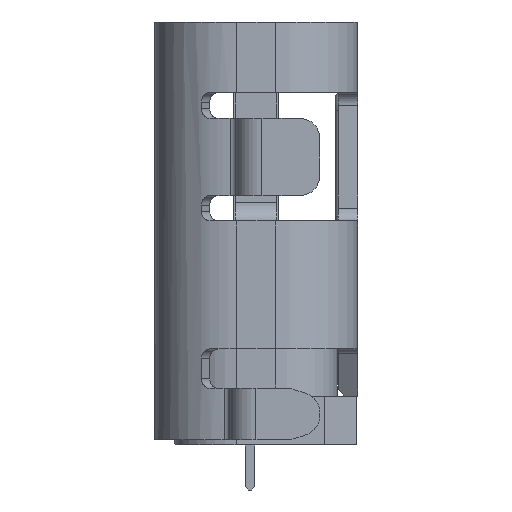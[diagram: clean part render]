
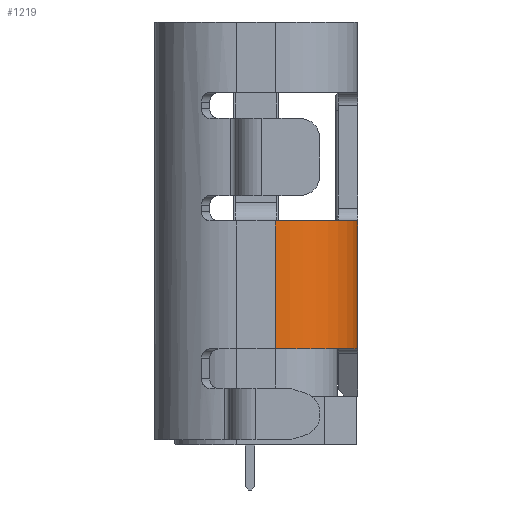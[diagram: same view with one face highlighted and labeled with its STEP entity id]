
A CAD part, left-side view. The second image highlights one B-rep face of the part: STEP entity #1219.
In plain terms, the highlighted cylindrical face has radius 1.28 mm (diameter 2.56 mm), a partial arc.
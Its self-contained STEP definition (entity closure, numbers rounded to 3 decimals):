
#273=CYLINDRICAL_SURFACE('',#15397,1.28);
#711=CIRCLE('',#15394,1.28);
#712=CIRCLE('',#15396,1.28);
#1219=ADVANCED_FACE('',(#2558),#273,.T.);
#2558=FACE_OUTER_BOUND('',#3365,.T.);
#3365=EDGE_LOOP('',(#6198,#6199,#6200,#6201));
#6198=ORIENTED_EDGE('',*,*,#9442,.T.);
#6199=ORIENTED_EDGE('',*,*,#10721,.T.);
#6200=ORIENTED_EDGE('',*,*,#10688,.F.);
#6201=ORIENTED_EDGE('',*,*,#10722,.T.);
#8096=VERTEX_POINT('',#20210);
#8097=VERTEX_POINT('',#20212);
#8938=VERTEX_POINT('',#23137);
#8940=VERTEX_POINT('',#23145);
#9442=EDGE_CURVE('',#8097,#8096,#11539,.T.);
#10688=EDGE_CURVE('',#8938,#8940,#12482,.T.);
#10721=EDGE_CURVE('',#8096,#8940,#711,.T.);
#10722=EDGE_CURVE('',#8938,#8097,#712,.T.);
#11539=LINE('',#20211,#13186);
#12482=LINE('',#23144,#14129);
#13186=VECTOR('',#16072,1.);
#14129=VECTOR('',#18297,1.);
#15394=AXIS2_PLACEMENT_3D('',#23206,#18371,#18372);
#15396=AXIS2_PLACEMENT_3D('',#23208,#18375,#18376);
#15397=AXIS2_PLACEMENT_3D('',#23209,#18377,#18378);
#16072=DIRECTION('',(0.,0.,1.));
#18297=DIRECTION('',(0.,0.,1.));
#18371=DIRECTION('',(0.,0.,-1.));
#18372=DIRECTION('',(0.,-1.,0.));
#18375=DIRECTION('',(0.,0.,1.));
#18376=DIRECTION('',(-1.,0.,0.));
#18377=DIRECTION('',(0.,0.,1.));
#18378=DIRECTION('',(-1.,0.,0.));
#20210=CARTESIAN_POINT('',(-3.19,-1.58,1.705));
#20211=CARTESIAN_POINT('',(-3.19,-1.58,-0.285));
#20212=CARTESIAN_POINT('',(-3.19,-1.58,-0.285));
#23137=CARTESIAN_POINT('',(-4.47,-0.3,-0.285));
#23144=CARTESIAN_POINT('',(-4.47,-0.3,-0.285));
#23145=CARTESIAN_POINT('',(-4.47,-0.3,1.705));
#23206=CARTESIAN_POINT('',(-3.19,-0.3,1.705));
#23208=CARTESIAN_POINT('',(-3.19,-0.3,-0.285));
#23209=CARTESIAN_POINT('',(-3.19,-0.3,-1.7));
